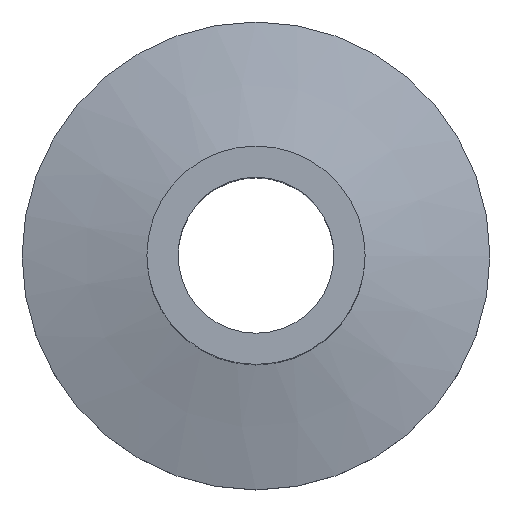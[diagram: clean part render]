
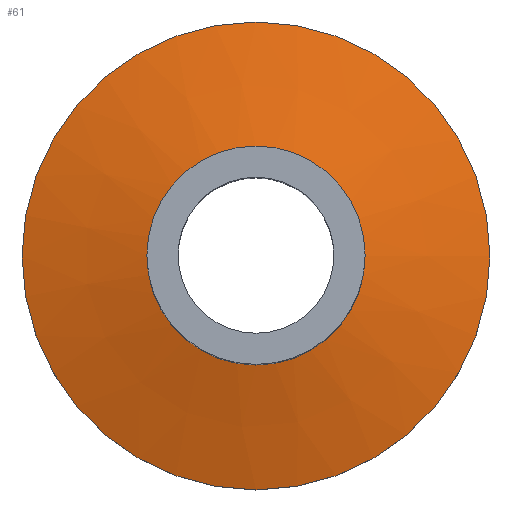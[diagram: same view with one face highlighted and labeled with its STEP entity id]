
A CAD part, top view. The second image highlights one B-rep face of the part: STEP entity #61.
In plain terms, the highlighted conical face has half-angle 75 degrees and reference radius 15 mm.
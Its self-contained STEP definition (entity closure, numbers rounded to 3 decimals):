
#61 = ADVANCED_FACE( '', ( #114, #115 ), #116, .T. );
#114 = FACE_OUTER_BOUND( '', #160, .T. );
#115 = FACE_BOUND( '', #161, .T. );
#116 = CONICAL_SURFACE( '', #162, 15., 1.309 );
#160 = EDGE_LOOP( '', ( #200 ) );
#161 = EDGE_LOOP( '', ( #201 ) );
#162 = AXIS2_PLACEMENT_3D( '', #202, #203, #204 );
#200 = ORIENTED_EDGE( '', *, *, #239, .T. );
#201 = ORIENTED_EDGE( '', *, *, #240, .F. );
#202 = CARTESIAN_POINT( '', ( 0., 0., 3. ) );
#203 = DIRECTION( '', ( 0., 0., -1. ) );
#204 = DIRECTION( '', ( -1., 0., 0. ) );
#239 = EDGE_CURVE( '', #260, #260, #261, .T. );
#240 = EDGE_CURVE( '', #262, #262, #263, .T. );
#260 = VERTEX_POINT( '', #284 );
#261 = CIRCLE( '', #285, 15. );
#262 = VERTEX_POINT( '', #286 );
#263 = CIRCLE( '', #287, 7. );
#284 = CARTESIAN_POINT( '', ( 15., 0., 3. ) );
#285 = AXIS2_PLACEMENT_3D( '', #309, #310, #311 );
#286 = CARTESIAN_POINT( '', ( 7., 0., 5.144 ) );
#287 = AXIS2_PLACEMENT_3D( '', #312, #313, #314 );
#309 = CARTESIAN_POINT( '', ( 0., 0., 3. ) );
#310 = DIRECTION( '', ( 0., 0., 1. ) );
#311 = DIRECTION( '', ( 1., 0., 0. ) );
#312 = CARTESIAN_POINT( '', ( 0., 0., 5.144 ) );
#313 = DIRECTION( '', ( 0., 0., 1. ) );
#314 = DIRECTION( '', ( 1., 0., 0. ) );
